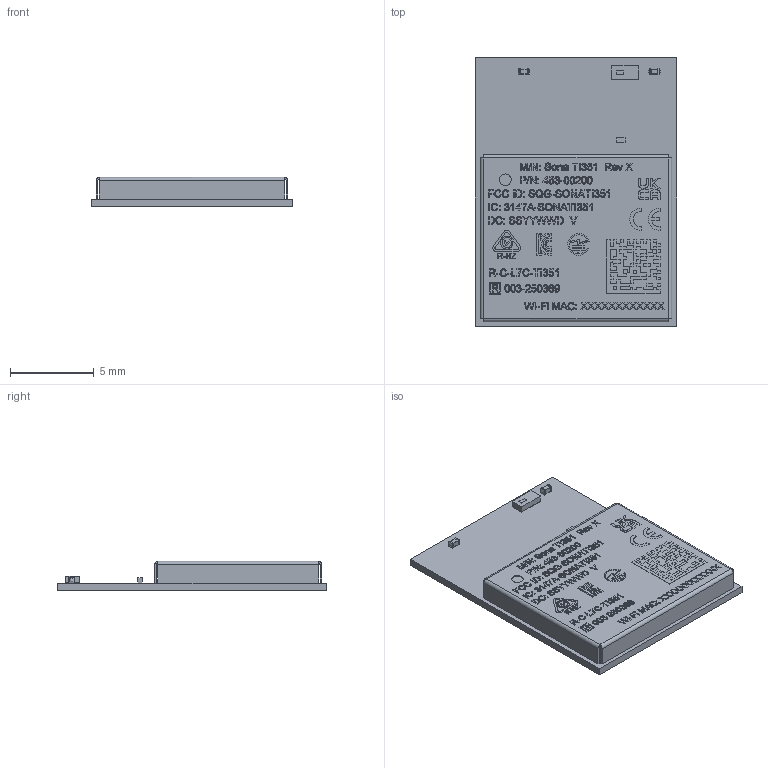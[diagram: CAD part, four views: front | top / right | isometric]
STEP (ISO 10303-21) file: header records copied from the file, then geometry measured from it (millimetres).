
FILE_DESCRIPTION (( 'STEP AP214' ), '1' );
FILE_NAME ('453-00200.STEP', '2026-05-25T10:45:53', ( '' ), ( '' ), 'SwSTEP 2.0', 'SolidWorks 2025', '' );
FILE_SCHEMA (( 'AUTOMOTIVE_DESIGN' ));
Length unit declared in the file: millimetre
Products named in the file (2): 940-00016-11117753_laser; 453-00200
Assembly tree (1 placements, depth 2):
  453-00200
    940-00016-11117753_laser
Bounding box: 12 x 16 x 1.75 mm (x, y, z)
Volume: 126.1 mm3; surface area: 996.6 mm2
Topology: 158 solids, 158 shells, 4059 faces, 10127 edges, 6379 vertices
Faces by surface type: plane 2584, bspline 821, cylinder 438, sphere 216
Entity records: 192592 total; most frequent: CARTESIAN_POINT 64206, ORIENTED_EDGE 19822, DIRECTION 15863, EDGE_CURVE 9911, LINE 7243, VECTOR 7243, VERTEX_POINT 6379, AXIS2_PLACEMENT_3D 4310
